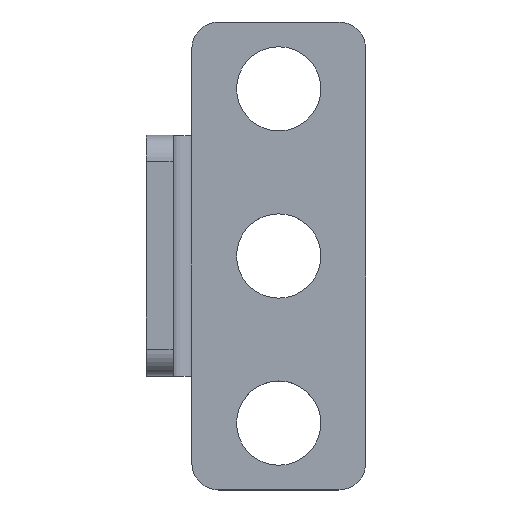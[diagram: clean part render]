
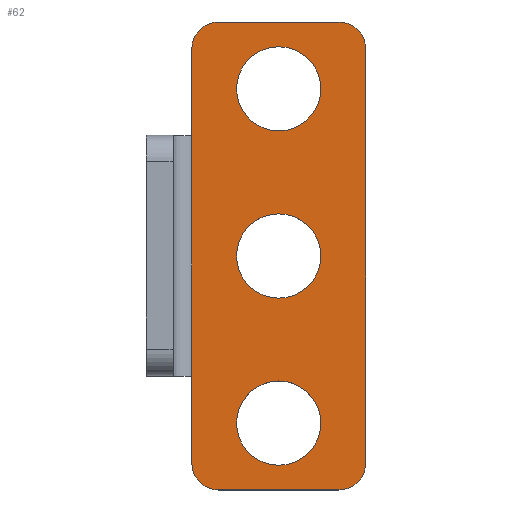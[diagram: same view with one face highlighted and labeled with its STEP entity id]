
A CAD part, top view. The second image highlights one B-rep face of the part: STEP entity #62.
In plain terms, the highlighted planar face has unit normal (0, 0, 1).
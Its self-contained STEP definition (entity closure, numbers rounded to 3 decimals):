
#62=ADVANCED_FACE('',(#157,#159,#161,#163),#165,.F.);
#157=FACE_BOUND('',#158,.T.);
#158=EDGE_LOOP('',(#346,#347,#348,#349,#350,#351,#352,#353,#354,#355));
#159=FACE_BOUND('',#160,.T.);
#160=EDGE_LOOP('',(#356));
#161=FACE_BOUND('',#162,.T.);
#162=EDGE_LOOP('',(#357));
#163=FACE_BOUND('',#164,.T.);
#164=EDGE_LOOP('',(#358));
#165=PLANE('',#166);
#166=AXIS2_PLACEMENT_3D('',#167,#168,#169);
#167=CARTESIAN_POINT('',(0.,0.,0.));
#168=DIRECTION('',(0.,0.,-1.));
#169=DIRECTION('',(-1.,0.,0.));
#346=ORIENTED_EDGE('',*,*,#455,.T.);
#347=ORIENTED_EDGE('',*,*,#478,.T.);
#348=ORIENTED_EDGE('',*,*,#469,.T.);
#349=ORIENTED_EDGE('',*,*,#479,.T.);
#350=ORIENTED_EDGE('',*,*,#465,.T.);
#351=ORIENTED_EDGE('',*,*,#480,.T.);
#352=ORIENTED_EDGE('',*,*,#463,.T.);
#353=ORIENTED_EDGE('',*,*,#481,.T.);
#354=ORIENTED_EDGE('',*,*,#457,.T.);
#355=ORIENTED_EDGE('',*,*,#482,.F.);
#356=ORIENTED_EDGE('',*,*,#447,.F.);
#357=ORIENTED_EDGE('',*,*,#449,.F.);
#358=ORIENTED_EDGE('',*,*,#451,.F.);
#447=EDGE_CURVE('',#517,#517,#518,.T.);
#449=EDGE_CURVE('',#521,#521,#522,.T.);
#451=EDGE_CURVE('',#525,#525,#526,.T.);
#455=EDGE_CURVE('',#534,#532,#535,.T.);
#457=EDGE_CURVE('',#537,#538,#539,.T.);
#463=EDGE_CURVE('',#550,#548,#551,.T.);
#465=EDGE_CURVE('',#553,#554,#555,.T.);
#469=EDGE_CURVE('',#561,#562,#563,.T.);
#478=EDGE_CURVE('',#532,#561,#574,.T.);
#479=EDGE_CURVE('',#562,#553,#575,.T.);
#480=EDGE_CURVE('',#554,#550,#576,.T.);
#481=EDGE_CURVE('',#548,#537,#577,.T.);
#482=EDGE_CURVE('',#534,#538,#578,.T.);
#517=VERTEX_POINT('',#633);
#518=CIRCLE('',#634,3.15);
#521=VERTEX_POINT('',#643);
#522=CIRCLE('',#644,3.15);
#525=VERTEX_POINT('',#653);
#526=CIRCLE('',#654,3.15);
#532=VERTEX_POINT('',#668);
#534=VERTEX_POINT('',#672);
#535=LINE('',#673,#674);
#537=VERTEX_POINT('',#679);
#538=VERTEX_POINT('',#680);
#539=LINE('',#681,#682);
#548=VERTEX_POINT('',#700);
#550=VERTEX_POINT('',#704);
#551=LINE('',#705,#706);
#553=VERTEX_POINT('',#711);
#554=VERTEX_POINT('',#712);
#555=LINE('',#713,#714);
#561=VERTEX_POINT('',#727);
#562=VERTEX_POINT('',#728);
#563=LINE('',#729,#730);
#574=CIRCLE('',#762,2.);
#575=CIRCLE('',#766,2.);
#576=CIRCLE('',#770,2.);
#577=CIRCLE('',#774,2.);
#578=LINE('',#778,#779);
#633=CARTESIAN_POINT('',(3.15,12.5,0.));
#634=AXIS2_PLACEMENT_3D('',#635,#636,#637);
#635=CARTESIAN_POINT('',(0.,12.5,0.));
#636=DIRECTION('',(0.,0.,1.));
#637=DIRECTION('',(-1.,0.,0.));
#643=CARTESIAN_POINT('',(3.15,0.,0.));
#644=AXIS2_PLACEMENT_3D('',#645,#646,#647);
#645=CARTESIAN_POINT('',(0.,0.,0.));
#646=DIRECTION('',(0.,0.,1.));
#647=DIRECTION('',(-1.,0.,0.));
#653=CARTESIAN_POINT('',(3.15,-12.5,0.));
#654=AXIS2_PLACEMENT_3D('',#655,#656,#657);
#655=CARTESIAN_POINT('',(0.,-12.5,0.));
#656=DIRECTION('',(0.,0.,1.));
#657=DIRECTION('',(-1.,0.,0.));
#668=CARTESIAN_POINT('',(-6.5,-15.5,0.));
#672=CARTESIAN_POINT('',(-6.5,-9.,0.));
#673=CARTESIAN_POINT('',(-6.5,-9.,0.));
#674=VECTOR('',#675,1.);
#675=DIRECTION('',(0.,-1.,0.));
#679=CARTESIAN_POINT('',(-6.5,15.5,0.));
#680=CARTESIAN_POINT('',(-6.5,9.,0.));
#681=CARTESIAN_POINT('',(-6.5,15.5,0.));
#682=VECTOR('',#683,1.);
#683=DIRECTION('',(0.,-1.,0.));
#700=CARTESIAN_POINT('',(-4.5,17.5,0.));
#704=CARTESIAN_POINT('',(4.5,17.5,0.));
#705=CARTESIAN_POINT('',(4.5,17.5,0.));
#706=VECTOR('',#707,1.);
#707=DIRECTION('',(-1.,0.,0.));
#711=CARTESIAN_POINT('',(6.5,-15.5,0.));
#712=CARTESIAN_POINT('',(6.5,15.5,0.));
#713=CARTESIAN_POINT('',(6.5,-15.5,0.));
#714=VECTOR('',#715,1.);
#715=DIRECTION('',(0.,1.,0.));
#727=CARTESIAN_POINT('',(-4.5,-17.5,0.));
#728=CARTESIAN_POINT('',(4.5,-17.5,0.));
#729=CARTESIAN_POINT('',(-4.5,-17.5,0.));
#730=VECTOR('',#731,1.);
#731=DIRECTION('',(1.,0.,0.));
#762=AXIS2_PLACEMENT_3D('',#763,#764,#765);
#763=CARTESIAN_POINT('',(-4.5,-15.5,0.));
#764=DIRECTION('',(0.,0.,1.));
#765=DIRECTION('',(-1.,0.,0.));
#766=AXIS2_PLACEMENT_3D('',#767,#768,#769);
#767=CARTESIAN_POINT('',(4.5,-15.5,0.));
#768=DIRECTION('',(0.,0.,1.));
#769=DIRECTION('',(0.,-1.,0.));
#770=AXIS2_PLACEMENT_3D('',#771,#772,#773);
#771=CARTESIAN_POINT('',(4.5,15.5,0.));
#772=DIRECTION('',(0.,0.,1.));
#773=DIRECTION('',(1.,0.,0.));
#774=AXIS2_PLACEMENT_3D('',#775,#776,#777);
#775=CARTESIAN_POINT('',(-4.5,15.5,0.));
#776=DIRECTION('',(0.,0.,1.));
#777=DIRECTION('',(0.,1.,0.));
#778=CARTESIAN_POINT('',(-6.5,-9.,0.));
#779=VECTOR('',#780,1.);
#780=DIRECTION('',(0.,1.,0.));
